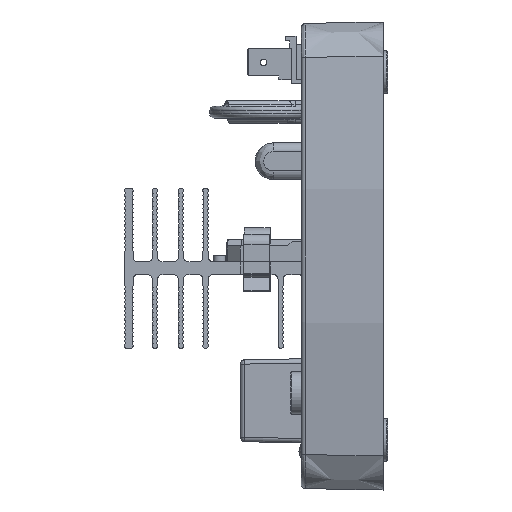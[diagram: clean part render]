
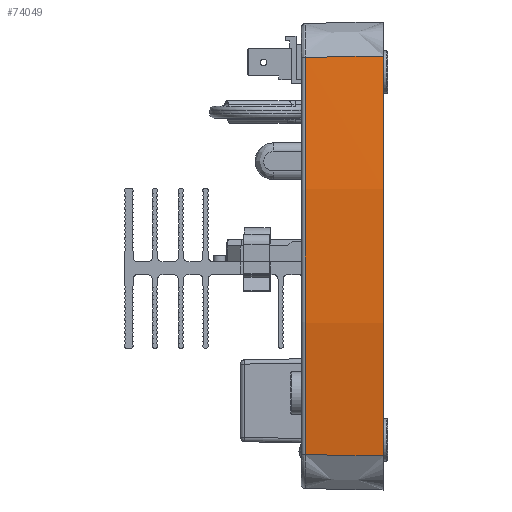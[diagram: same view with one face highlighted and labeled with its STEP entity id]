
A CAD part, left-side view. The second image highlights one B-rep face of the part: STEP entity #74049.
In plain terms, the highlighted conical face has half-angle 1 degrees and reference radius 268.867 mm.
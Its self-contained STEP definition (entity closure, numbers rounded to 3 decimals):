
#3621 = CARTESIAN_POINT ( 'NONE',  ( -85.355, 12.012, -46.064 ) ) ;
#12526 = ORIENTED_EDGE ( 'NONE', *, *, #115328, .F. ) ;
#18646 = CARTESIAN_POINT ( 'NONE',  ( -85.268, 18.017, 45.956 ) ) ;
#21944 = AXIS2_PLACEMENT_3D ( 'NONE', #130663, #142953, #28595 ) ;
#28244 = CARTESIAN_POINT ( 'NONE',  ( -85.531, 0., -46.28 ) ) ;
#28595 = DIRECTION ( 'NONE',  ( 0., 0., -1. ) ) ;
#31309 = CARTESIAN_POINT ( 'NONE',  ( -85.531, 0., 46.28 ) ) ;
#32873 = DIRECTION ( 'NONE',  ( 0., -1., 0. ) ) ;
#33656 = CIRCLE ( 'NONE', #105586, 268.867 ) ;
#35196 = EDGE_CURVE ( 'NONE', #117122, #60566, #49492, .T. ) ;
#41081 = CARTESIAN_POINT ( 'NONE',  ( -85.443, 6.006, -46.172 ) ) ;
#49492 = CIRCLE ( 'NONE', #155156, 268.553 ) ;
#57913 = VERTEX_POINT ( 'NONE', #120802 ) ;
#60175 = CONICAL_SURFACE ( 'NONE', #21944, 268.867, 0.017 ) ;
#60566 = VERTEX_POINT ( 'NONE', #107107 ) ;
#66478 = CARTESIAN_POINT ( 'NONE',  ( 179.324, 0., 0. ) ) ;
#69392 = CARTESIAN_POINT ( 'NONE',  ( -85.443, 6.006, 46.172 ) ) ;
#70179 = VERTEX_POINT ( 'NONE', #31309 ) ;
#74049 = ADVANCED_FACE ( 'NONE', ( #98226 ), #60175, .T. ) ;
#76026 = EDGE_CURVE ( 'NONE', #70179, #57913, #33656, .T. ) ;
#77479 = B_SPLINE_CURVE_WITH_KNOTS ( 'NONE', 3,
 ( #158642, #69392, #95139, #18646 ),
 .UNSPECIFIED., .F., .F.,
 ( 4, 4 ),
 ( 0., 1. ),
 .UNSPECIFIED. ) ;
#79386 = DIRECTION ( 'NONE',  ( 0., 0., -1. ) ) ;
#82535 = B_SPLINE_CURVE_WITH_KNOTS ( 'NONE', 3,
 ( #28244, #41081, #3621, #93001 ),
 .UNSPECIFIED., .F., .F.,
 ( 4, 4 ),
 ( 0., 1. ),
 .UNSPECIFIED. ) ;
#89583 = ORIENTED_EDGE ( 'NONE', *, *, #76026, .F. ) ;
#93001 = CARTESIAN_POINT ( 'NONE',  ( -85.268, 18.017, -45.956 ) ) ;
#95139 = CARTESIAN_POINT ( 'NONE',  ( -85.355, 12.012, 46.064 ) ) ;
#95509 = EDGE_CURVE ( 'NONE', #70179, #117122, #77479, .T. ) ;
#98226 = FACE_OUTER_BOUND ( 'NONE', #127854, .T. ) ;
#99343 = ORIENTED_EDGE ( 'NONE', *, *, #35196, .T. ) ;
#105586 = AXIS2_PLACEMENT_3D ( 'NONE', #66478, #155754, #79386 ) ;
#107107 = CARTESIAN_POINT ( 'NONE',  ( -85.268, 18.017, -45.956 ) ) ;
#109412 = CARTESIAN_POINT ( 'NONE',  ( 179.324, 18.017, 0. ) ) ;
#115328 = EDGE_CURVE ( 'NONE', #57913, #60566, #82535, .T. ) ;
#117122 = VERTEX_POINT ( 'NONE', #127903 ) ;
#120802 = CARTESIAN_POINT ( 'NONE',  ( -85.531, 0., -46.28 ) ) ;
#122189 = DIRECTION ( 'NONE',  ( 0., 0., -1. ) ) ;
#127854 = EDGE_LOOP ( 'NONE', ( #140849, #99343, #12526, #89583 ) ) ;
#127903 = CARTESIAN_POINT ( 'NONE',  ( -85.268, 18.017, 45.956 ) ) ;
#130663 = CARTESIAN_POINT ( 'NONE',  ( 179.324, 0., 0. ) ) ;
#140849 = ORIENTED_EDGE ( 'NONE', *, *, #95509, .T. ) ;
#142953 = DIRECTION ( 'NONE',  ( 0., -1., 0. ) ) ;
#155156 = AXIS2_PLACEMENT_3D ( 'NONE', #109412, #32873, #122189 ) ;
#155754 = DIRECTION ( 'NONE',  ( 0., -1., 0. ) ) ;
#158642 = CARTESIAN_POINT ( 'NONE',  ( -85.531, 0., 46.28 ) ) ;
